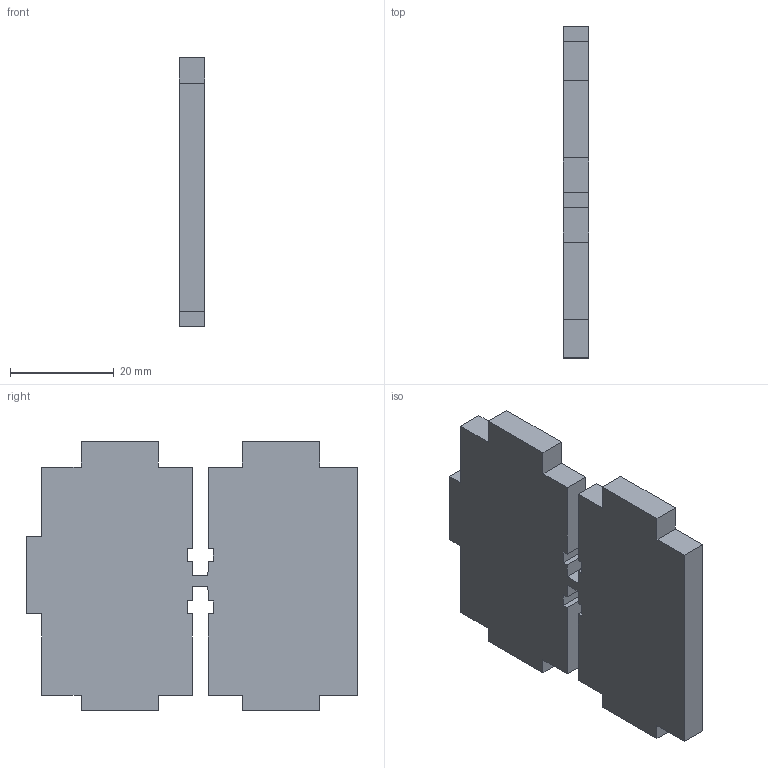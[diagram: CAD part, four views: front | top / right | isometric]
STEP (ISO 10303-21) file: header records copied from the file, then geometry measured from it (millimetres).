
FILE_DESCRIPTION(/* description */ (''),/* implementation_level */ '2;1');
FILE_NAME(/* name */ 'REFUER~3',/* time_stamp */ '2019-04-01T20:03:02-03:00',/* author */ (''),/* organization */ (''),/* preprocessor_version */ 'ST-DEVELOPER v16.5',/* originating_system */ '',/* authorisation */ '');
FILE_SCHEMA (('AUTOMOTIVE_DESIGN'));
Length unit declared in the file: millimetre
Products named in the file (1): Document
Bounding box: 5 x 64 x 52 mm (x, y, z)
Volume: 14151.3 mm3; surface area: 7360.8 mm2
Topology: 1 solids, 1 shells, 50 faces, 144 edges, 96 vertices
Faces by surface type: plane 50
Entity records: 1429 total; most frequent: CARTESIAN_POINT 435, ORIENTED_EDGE 288, EDGE_CURVE 144, B_SPLINE_CURVE_WITH_KNOTS 144, VERTEX_POINT 96, DIRECTION 53, AXIS2_PLACEMENT_3D 51, ADVANCED_FACE 50
